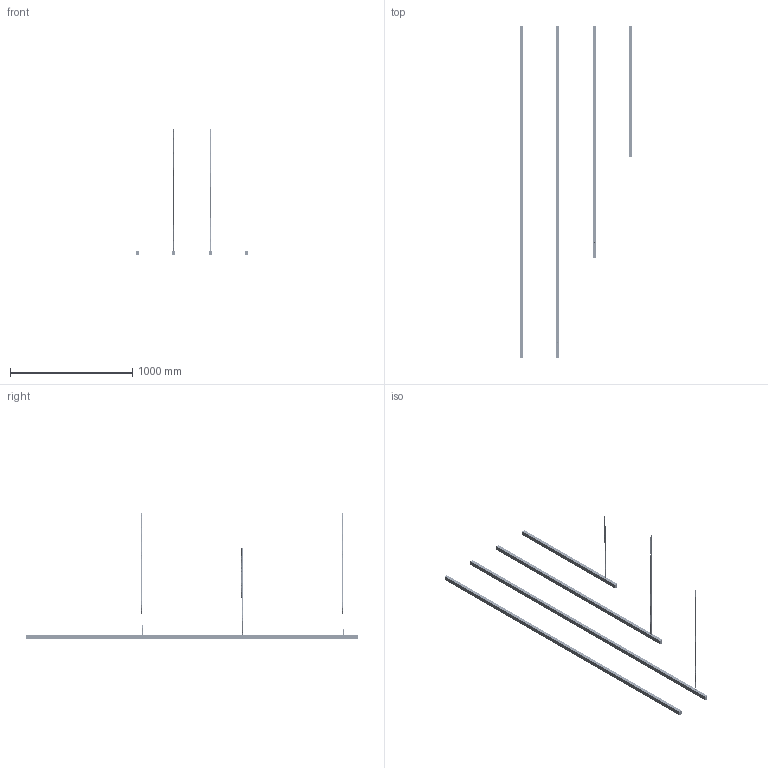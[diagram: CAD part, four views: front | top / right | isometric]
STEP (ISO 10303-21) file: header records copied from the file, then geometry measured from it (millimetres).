
FILE_DESCRIPTION(/* description */ (''),/* implementation_level */ '2;1');
FILE_NAME(/* name */ '/Users/EtreModerne/Desktop/LL 25 - pendel met louvre v3.step',/* time_stamp */ '2021-03-10T12:13:42+01:00',/* author */ (''),/* organization */ (''),/* preprocessor_version */ 'ST-DEVELOPER v18.1',/* originating_system */ 'Autodesk Translation Framework v9.10.0.1330',/* authorisation */ '');
FILE_SCHEMA (('AUTOMOTIVE_DESIGN { 1 0 10303 214 3 1 1 }'));
Products named in the file (98): LL 25 - pendel met louvre; LL25 _ 1075; LOUVRE (2); PCB WITH LENSES (12); pcb in stucchi 280 v2 (12); LOUVRE (2)_1; PCB WITH LENSES (12)_1; pcb in stucchi 280 v2 (12)_1; LOUVRE (2)_2; PCB WITH LENSES (12)_2; pcb in stucchi 280 v2 (12)_2; LOUVRE (2)_3; PCB WITH LENSES (12)_3; pcb in stucchi 280 v2 (12)_3; DIFFUSER 250; LL25 _ 1072; ZIJ; LL25 _ 1896; LOUVRE (2)_4; PCB WITH LENSES (12)_4; pcb in stucchi 280 v2 (12)_4; LOUVRE (2)_5; PCB WITH LENSES (12)_5; pcb in stucchi 280 v2 (12)_5; LOUVRE (2)_6; PCB WITH LENSES (12)_6; pcb in stucchi 280 v2 (12)_6; LOUVRE (2)_7; PCB WITH LENSES (12)_7; pcb in stucchi 280 v2 (12)_7; LL25 _ 1072 (1); ZIJ (1); LOUVRE (2)_8; PCB WITH LENSES (12)_8; pcb in stucchi 280 v2 (12)_8; LOUVRE (2)_9; PCB WITH LENSES (12)_9; pcb in stucchi 280 v2 (12)_9; LOUVRE (2)_10; PCB WITH LENSES (12)_10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
Assembly tree (443 placements, depth 6):
  LL 25 - pendel met louvre
    LL25 _ 1075
      LOUVRE (2)
        PCB WITH LENSES (12)
          pcb in stucchi 280 v2 (12)
            PCB  (12)
          Mechanicalmodel_FP11055_LISA2-RS-PIN v1 (12)  x6
        LED (12)  x6
        LINE.S.LOUVRE - index B3 v1 (12)
      LOUVRE (2)_1
        PCB WITH LENSES (12)_1
          pcb in stucchi 280 v2 (12)_1
            PCB  (12)
          Mechanicalmodel_FP11055_LISA2-RS-PIN v1 (12)  x6
        LED (12)  x6
        LINE.S.LOUVRE - index B3 v1 (12)
      LOUVRE (2)_2
        PCB WITH LENSES (12)_2
          pcb in stucchi 280 v2 (12)_2
            PCB  (12)
          Mechanicalmodel_FP11055_LISA2-RS-PIN v1 (12)  x6
        LED (12)  x6
        LINE.S.LOUVRE - index B3 v1 (12)
      LOUVRE (2)_3
        PCB WITH LENSES (12)_3
          pcb in stucchi 280 v2 (12)_3
            PCB  (12)
          Mechanicalmodel_FP11055_LISA2-RS-PIN v1 (12)  x6
        LED (12)  x6
        LINE.S.LOUVRE - index B3 v1 (12)
      DIFFUSER 250  x2
      LL25 _ 1072
      ZIJ  x2
    LL25 _ 1896
      LOUVRE (2)_4
        PCB WITH LENSES (12)_4
          pcb in stucchi 280 v2 (12)_4
            PCB  (12)
          Mechanicalmodel_FP11055_LISA2-RS-PIN v1 (12)  x6
        LED (12)  x6
        LINE.S.LOUVRE - index B3 v1 (12)
      LOUVRE (2)_5
        PCB WITH LENSES (12)_5
          pcb in stucchi 280 v2 (12)_5
            PCB  (12)
          Mechanicalmodel_FP11055_LISA2-RS-PIN v1 (12)  x6
        LED (12)  x6
        LINE.S.LOUVRE - index B3 v1 (12)
      LOUVRE (2)_6
        PCB WITH LENSES (12)_6
          pcb in stucchi 280 v2 (12)_6
            PCB  (12)
          Mechanicalmodel_FP11055_LISA2-RS-PIN v1 (12)  x6
        LED (12)  x6
        LINE.S.LOUVRE - index B3 v1 (12)
      LOUVRE (2)_7
        PCB WITH LENSES (12)_7
          pcb in stucchi 280 v2 (12)_7
            PCB  (12)
          Mechanicalmodel_FP11055_LISA2-RS-PIN v1 (12)  x6
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Bounding box: 925 x 2718.26 x 1035 mm (x, y, z)
Volume: 2479006.7 mm3; surface area: 2715564 mm2
Topology: 511 solids, 511 shells, 50606 faces, 132381 edges, 80733 vertices
Faces by surface type: plane 15726, bspline 14982, cylinder 6698, cone 6480, torus 4320, sphere 2400
Full cylindrical faces by diameter (mm): 1 x6, 2.2 x24, 8.856 x144
Entity records: 59466 total; most frequent: CARTESIAN_POINT 30906, DIRECTION 5464, ORIENTED_EDGE 5444, EDGE_CURVE 2722, AXIS2_PLACEMENT_3D 2186, VERTEX_POINT 1724, LINE 1092, VECTOR 1092
